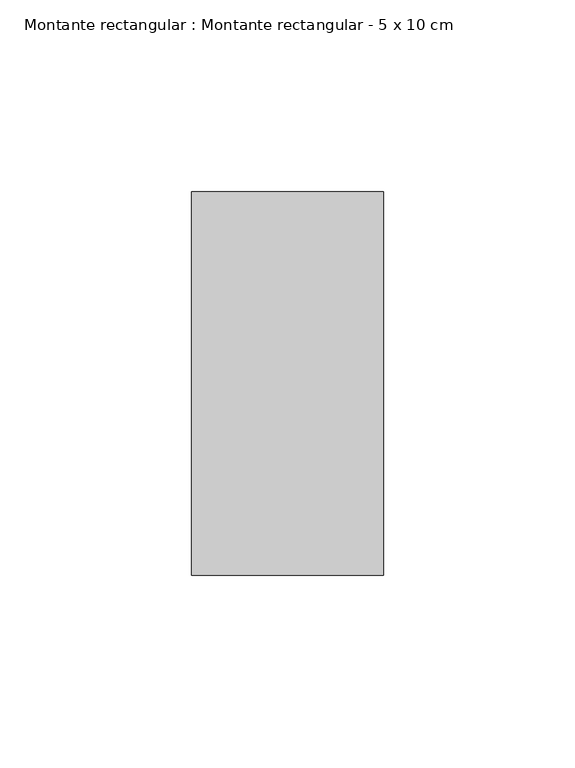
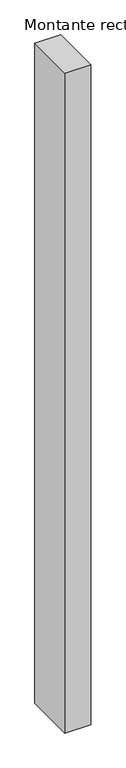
"""IFC4 building model written with IfcOpenShell, lengths in millimetres: member geometry, Montante rectangular : Montante rectangular - 5 x 10 cm."""

from ifc_helpers import new_model, si_unit, frame, origin, place, context, project, spatial, polyline, outline, extrude, source, transform, mapped, element, save


def montante_rectangular_montante_rectangular_5_x_10_cm_309d7a68(model_context):
    return source(origin(), model_context, "Body", "SweptSolid", [
        extrude(outline(polyline([(25.0, 50.0), (25.0, -50.0), (-25.0, -50.0), (-25.0, 50.0), (25.0, 50.0)])), frame((0.0, 0.0, -1350.0), z_axis=(0.0, 0.0, 1.0), x_axis=(1.0, 0.0, 0.0)), (0.0, 0.0, 1.0), 1350.0),
    ])


if __name__ == "__main__":
    model = new_model("IFC4")
    model_context = context("Model", 3, world=origin())
    ifc_project = project(units=[si_unit("LENGTHUNIT", "METRE", prefix="MILLI")], contexts=[model_context])
    site = spatial("IfcSite", under=ifc_project)
    building = spatial("IfcBuilding", under=site)
    placement = place(None, origin())
    montante_rectangular_montante_rectangular_5_x_10_cm_shape = montante_rectangular_montante_rectangular_5_x_10_cm_309d7a68(model_context)
    element("IfcMember", 1, ObjectType="Montante rectangular : Montante rectangular - 5 x 10 cm", at=placement, inside=building, context=model_context, shape_type="MappedRepresentation", body=[
        mapped(montante_rectangular_montante_rectangular_5_x_10_cm_shape, transform((0.0, 0.0, 0.0), x_axis=(1.0, 0.0, 0.0), y_axis=(0.0, 1.0, 0.0), z_axis=(0.0, 0.0, 1.0))),
    ])
    save(model, "model.ifc")
